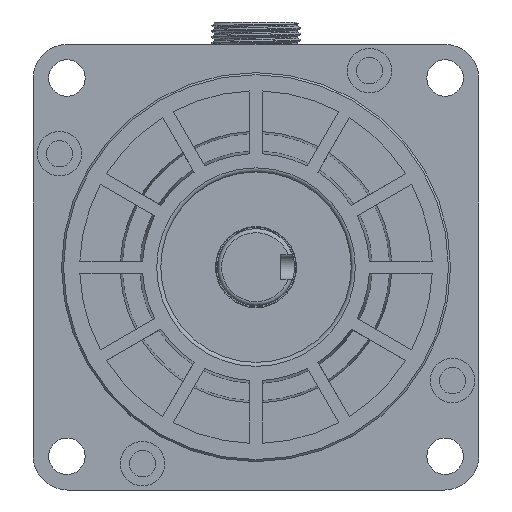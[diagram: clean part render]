
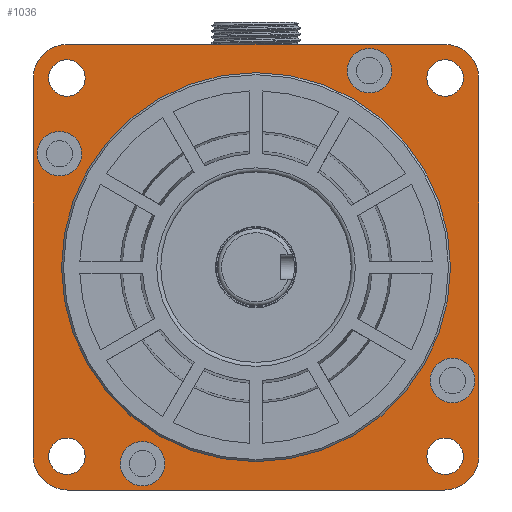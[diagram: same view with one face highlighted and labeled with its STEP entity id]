
A CAD part, front view. The second image highlights one B-rep face of the part: STEP entity #1036.
In plain terms, the highlighted planar face has unit normal (0, -1, 0).
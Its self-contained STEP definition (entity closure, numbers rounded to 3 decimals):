
#1036=ADVANCED_FACE('',(#2396,#2397,#2398,#2399,#2400,#2401,#2402,#2403,
#2404,#2405),#1285,.T.);
#1285=PLANE('',#7720);
#1644=LINE('',#14171,#2102);
#1728=LINE('',#14543,#2186);
#1729=LINE('',#14544,#2187);
#1730=LINE('',#14548,#2188);
#2102=VECTOR('',#9242,1.);
#2186=VECTOR('',#9566,1.);
#2187=VECTOR('',#9567,1.);
#2188=VECTOR('',#9570,1.);
#2396=FACE_BOUND('',#2831,.T.);
#2397=FACE_BOUND('',#2832,.T.);
#2398=FACE_BOUND('',#2833,.T.);
#2399=FACE_BOUND('',#2834,.T.);
#2400=FACE_BOUND('',#2835,.T.);
#2401=FACE_BOUND('',#2836,.T.);
#2402=FACE_BOUND('',#2837,.T.);
#2403=FACE_BOUND('',#2838,.T.);
#2404=FACE_BOUND('',#2839,.T.);
#2405=FACE_BOUND('',#2840,.T.);
#2831=EDGE_LOOP('',(#4409));
#2832=EDGE_LOOP('',(#4410));
#2833=EDGE_LOOP('',(#4411));
#2834=EDGE_LOOP('',(#4412));
#2835=EDGE_LOOP('',(#4413,#4414,#4415,#4416,#4417,#4418,#4419,#4420));
#2836=EDGE_LOOP('',(#4421));
#2837=EDGE_LOOP('',(#4422));
#2838=EDGE_LOOP('',(#4423));
#2839=EDGE_LOOP('',(#4424));
#2840=EDGE_LOOP('',(#4425));
#4409=ORIENTED_EDGE('',*,*,#6485,.T.);
#4410=ORIENTED_EDGE('',*,*,#6486,.T.);
#4411=ORIENTED_EDGE('',*,*,#6487,.T.);
#4412=ORIENTED_EDGE('',*,*,#6488,.T.);
#4413=ORIENTED_EDGE('',*,*,#6489,.T.);
#4414=ORIENTED_EDGE('',*,*,#6490,.F.);
#4415=ORIENTED_EDGE('',*,*,#6224,.T.);
#4416=ORIENTED_EDGE('',*,*,#6317,.F.);
#4417=ORIENTED_EDGE('',*,*,#6220,.T.);
#4418=ORIENTED_EDGE('',*,*,#6491,.F.);
#4419=ORIENTED_EDGE('',*,*,#6492,.T.);
#4420=ORIENTED_EDGE('',*,*,#6493,.F.);
#4421=ORIENTED_EDGE('',*,*,#6227,.T.);
#4422=ORIENTED_EDGE('',*,*,#6226,.T.);
#4423=ORIENTED_EDGE('',*,*,#6484,.F.);
#4424=ORIENTED_EDGE('',*,*,#6494,.T.);
#4425=ORIENTED_EDGE('',*,*,#6495,.T.);
#5390=VERTEX_POINT('',#13764);
#5391=VERTEX_POINT('',#13765);
#5392=VERTEX_POINT('',#13770);
#5393=VERTEX_POINT('',#13772);
#5394=VERTEX_POINT('',#13776);
#5395=VERTEX_POINT('',#13779);
#5560=VERTEX_POINT('',#14530);
#5561=VERTEX_POINT('',#14533);
#5562=VERTEX_POINT('',#14535);
#5563=VERTEX_POINT('',#14537);
#5564=VERTEX_POINT('',#14539);
#5565=VERTEX_POINT('',#14541);
#5566=VERTEX_POINT('',#14542);
#5567=VERTEX_POINT('',#14545);
#5568=VERTEX_POINT('',#14547);
#5569=VERTEX_POINT('',#14550);
#5570=VERTEX_POINT('',#14552);
#6220=EDGE_CURVE('',#5390,#5391,#6902,.T.);
#6224=EDGE_CURVE('',#5393,#5392,#6903,.T.);
#6226=EDGE_CURVE('',#5394,#5394,#6904,.T.);
#6227=EDGE_CURVE('',#5395,#5395,#6905,.T.);
#6317=EDGE_CURVE('',#5390,#5392,#1644,.T.);
#6484=EDGE_CURVE('',#5560,#5560,#7001,.T.);
#6485=EDGE_CURVE('',#5561,#5561,#7002,.T.);
#6486=EDGE_CURVE('',#5562,#5562,#7003,.T.);
#6487=EDGE_CURVE('',#5563,#5563,#7004,.T.);
#6488=EDGE_CURVE('',#5564,#5564,#7005,.T.);
#6489=EDGE_CURVE('',#5565,#5566,#7006,.T.);
#6490=EDGE_CURVE('',#5393,#5566,#1728,.T.);
#6491=EDGE_CURVE('',#5567,#5391,#1729,.T.);
#6492=EDGE_CURVE('',#5567,#5568,#7007,.T.);
#6493=EDGE_CURVE('',#5565,#5568,#1730,.T.);
#6494=EDGE_CURVE('',#5569,#5569,#7008,.T.);
#6495=EDGE_CURVE('',#5570,#5570,#7009,.T.);
#6902=CIRCLE('',#7534,8.5);
#6903=CIRCLE('',#7536,8.5);
#6904=CIRCLE('',#7538,5.5);
#6905=CIRCLE('',#7540,5.5);
#7001=CIRCLE('',#7710,48.);
#7002=CIRCLE('',#7712,4.5);
#7003=CIRCLE('',#7713,4.5);
#7004=CIRCLE('',#7714,4.5);
#7005=CIRCLE('',#7715,4.5);
#7006=CIRCLE('',#7716,8.5);
#7007=CIRCLE('',#7717,8.5);
#7008=CIRCLE('',#7718,5.5);
#7009=CIRCLE('',#7719,5.5);
#7534=AXIS2_PLACEMENT_3D('',#13763,#9071,#9072);
#7536=AXIS2_PLACEMENT_3D('',#13771,#9078,#9079);
#7538=AXIS2_PLACEMENT_3D('',#13775,#9083,#9084);
#7540=AXIS2_PLACEMENT_3D('',#13778,#9087,#9088);
#7710=AXIS2_PLACEMENT_3D('',#14529,#9552,#9553);
#7712=AXIS2_PLACEMENT_3D('',#14532,#9556,#9557);
#7713=AXIS2_PLACEMENT_3D('',#14534,#9558,#9559);
#7714=AXIS2_PLACEMENT_3D('',#14536,#9560,#9561);
#7715=AXIS2_PLACEMENT_3D('',#14538,#9562,#9563);
#7716=AXIS2_PLACEMENT_3D('',#14540,#9564,#9565);
#7717=AXIS2_PLACEMENT_3D('',#14546,#9568,#9569);
#7718=AXIS2_PLACEMENT_3D('',#14549,#9571,#9572);
#7719=AXIS2_PLACEMENT_3D('',#14551,#9573,#9574);
#7720=AXIS2_PLACEMENT_3D('',#14553,#9575,#9576);
#9071=DIRECTION('',(0.,-1.,0.));
#9072=DIRECTION('',(-1.,0.,0.));
#9078=DIRECTION('',(0.,-1.,0.));
#9079=DIRECTION('',(-1.,0.,0.));
#9083=DIRECTION('',(0.,1.,0.));
#9084=DIRECTION('',(-1.,0.,0.));
#9087=DIRECTION('',(0.,1.,0.));
#9088=DIRECTION('',(-1.,0.,0.));
#9242=DIRECTION('',(0.,0.,1.));
#9552=DIRECTION('',(0.,-1.,0.));
#9553=DIRECTION('',(-1.,0.,0.));
#9556=DIRECTION('',(0.,1.,0.));
#9557=DIRECTION('',(-1.,0.,0.));
#9558=DIRECTION('',(0.,1.,0.));
#9559=DIRECTION('',(-1.,0.,0.));
#9560=DIRECTION('',(0.,1.,0.));
#9561=DIRECTION('',(-1.,0.,0.));
#9562=DIRECTION('',(0.,1.,0.));
#9563=DIRECTION('',(-1.,0.,0.));
#9564=DIRECTION('',(0.,-1.,0.));
#9565=DIRECTION('',(-1.,0.,0.));
#9566=DIRECTION('',(1.,0.,0.));
#9567=DIRECTION('',(-1.,0.,0.));
#9568=DIRECTION('',(0.,-1.,0.));
#9569=DIRECTION('',(-1.,0.,0.));
#9570=DIRECTION('',(0.,0.,-1.));
#9571=DIRECTION('',(0.,1.,0.));
#9572=DIRECTION('',(-1.,0.,0.));
#9573=DIRECTION('',(0.,1.,0.));
#9574=DIRECTION('',(-1.,0.,0.));
#9575=DIRECTION('',(0.,-1.,0.));
#9576=DIRECTION('',(1.,0.,0.));
#13763=CARTESIAN_POINT('',(207.438,-291.466,-252.534));
#13764=CARTESIAN_POINT('',(198.938,-291.466,-252.534));
#13765=CARTESIAN_POINT('',(207.438,-291.466,-261.034));
#13770=CARTESIAN_POINT('',(198.938,-291.466,-159.534));
#13771=CARTESIAN_POINT('',(207.438,-291.466,-159.534));
#13772=CARTESIAN_POINT('',(207.438,-291.466,-151.034));
#13775=CARTESIAN_POINT('',(205.44,-291.466,-178.034));
#13776=CARTESIAN_POINT('',(199.94,-291.466,-178.034));
#13778=CARTESIAN_POINT('',(225.938,-291.466,-254.531));
#13779=CARTESIAN_POINT('',(220.438,-291.466,-254.531));
#14171=CARTESIAN_POINT('',(198.938,-291.466,-206.034));
#14529=CARTESIAN_POINT('',(253.938,-291.466,-206.034));
#14530=CARTESIAN_POINT('',(205.938,-291.466,-206.034));
#14532=CARTESIAN_POINT('',(300.607,-291.466,-159.365));
#14533=CARTESIAN_POINT('',(296.107,-291.466,-159.365));
#14534=CARTESIAN_POINT('',(207.268,-291.466,-159.365));
#14535=CARTESIAN_POINT('',(202.768,-291.466,-159.365));
#14536=CARTESIAN_POINT('',(207.268,-291.466,-252.703));
#14537=CARTESIAN_POINT('',(202.768,-291.466,-252.703));
#14538=CARTESIAN_POINT('',(300.607,-291.466,-252.703));
#14539=CARTESIAN_POINT('',(296.107,-291.466,-252.703));
#14540=CARTESIAN_POINT('',(300.438,-291.466,-159.534));
#14541=CARTESIAN_POINT('',(308.938,-291.466,-159.534));
#14542=CARTESIAN_POINT('',(300.438,-291.466,-151.034));
#14543=CARTESIAN_POINT('',(253.938,-291.466,-151.034));
#14544=CARTESIAN_POINT('',(253.938,-291.466,-261.034));
#14545=CARTESIAN_POINT('',(300.438,-291.466,-261.034));
#14546=CARTESIAN_POINT('',(300.438,-291.466,-252.534));
#14547=CARTESIAN_POINT('',(308.938,-291.466,-252.534));
#14548=CARTESIAN_POINT('',(308.938,-291.466,-206.034));
#14549=CARTESIAN_POINT('',(302.435,-291.466,-234.034));
#14550=CARTESIAN_POINT('',(296.935,-291.466,-234.034));
#14551=CARTESIAN_POINT('',(281.938,-291.466,-157.536));
#14552=CARTESIAN_POINT('',(276.438,-291.466,-157.536));
#14553=CARTESIAN_POINT('',(253.938,-291.466,-206.034));
